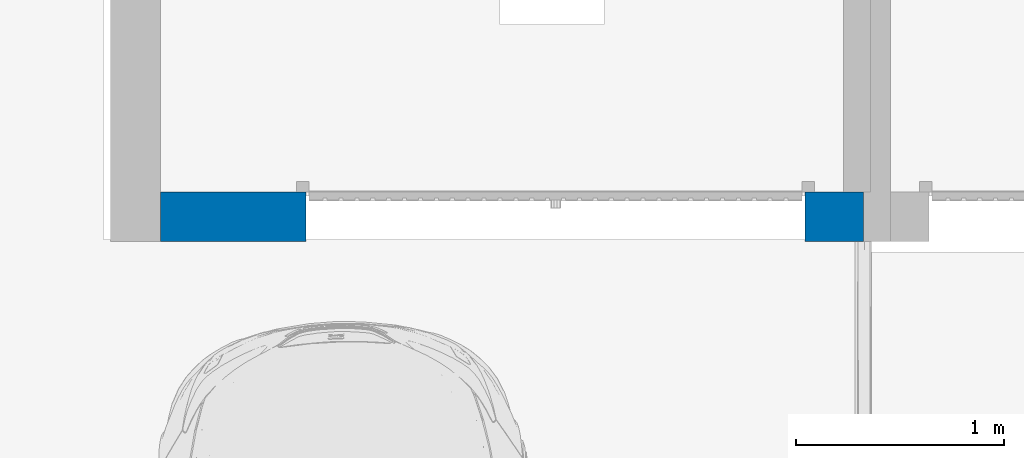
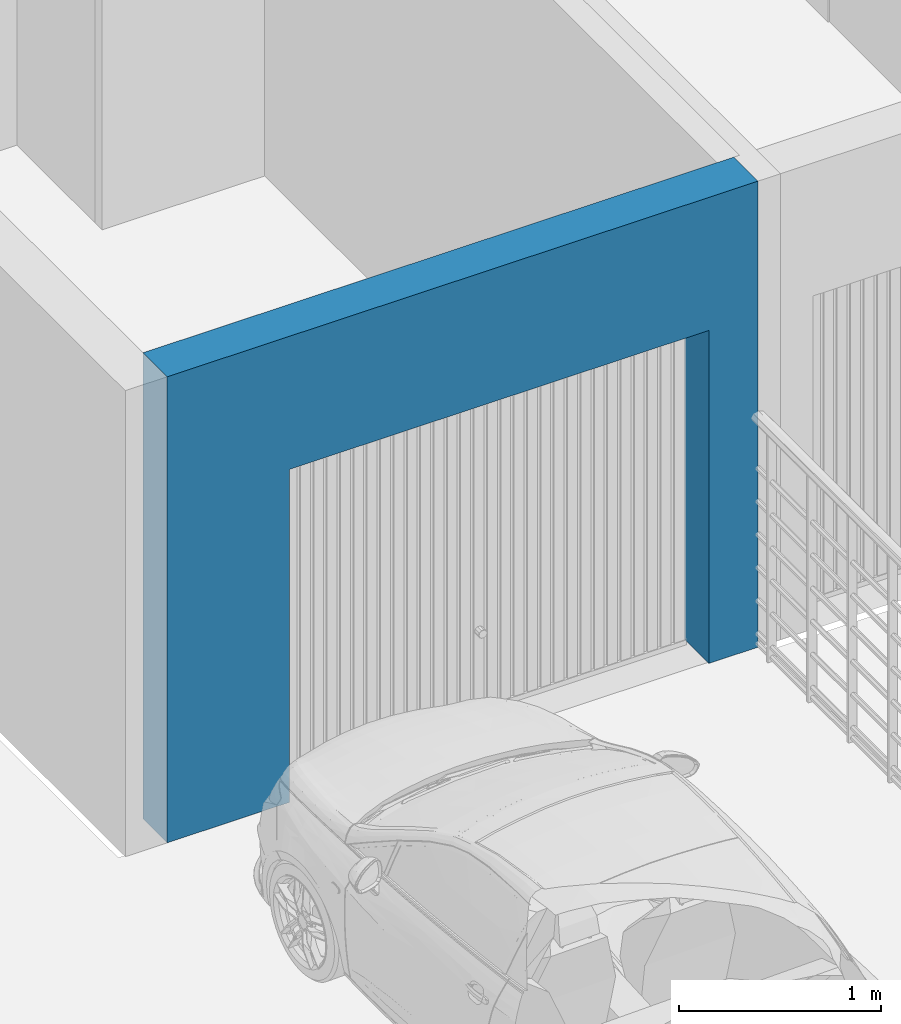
# One storey, part 14 of 33: 1 wall, 1 opening.
"""IFC2X3 building model written with IfcOpenShell, lengths in metres."""

from ifc_helpers import new_model, entity, si_unit, converted_unit, derived_unit, direction, frame, frame_2d, origin, place, context, subcontext, project, spatial, rectangle, extrude, material, layer, layer_set, layer_usage, type_object, element, save


model = new_model("IFC2X3")

# Units and contexts
model_context = context("Model", 3, precision=1e-05, world=origin(), true_north=direction((6.12303176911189e-17, 1.0)))
context_of_model = context(None, 3, precision=1e-05, world=origin(), true_north=direction((6.12303176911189e-17, 1.0)))
body_context = subcontext(model_context, "Body", "Model", "MODEL_VIEW")
ifc_project = project(units=[si_unit("LENGTHUNIT", "METRE"), si_unit("AREAUNIT", "SQUARE_METRE"), si_unit("VOLUMEUNIT", "CUBIC_METRE"), converted_unit("PLANEANGLEUNIT", "DEGREE", entity("IfcRatioMeasure", 0.0174532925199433), si_unit("PLANEANGLEUNIT", "RADIAN"), dimensions=[0, 0, 0, 0, 0, 0, 0]), si_unit("MASSUNIT", "GRAM", prefix="KILO"), si_unit("TIMEUNIT", "SECOND"), si_unit("FREQUENCYUNIT", "HERTZ"), si_unit("THERMODYNAMICTEMPERATUREUNIT", "DEGREE_CELSIUS"), derived_unit("THERMALTRANSMITTANCEUNIT", [(si_unit("MASSUNIT", "GRAM", prefix="KILO"), 1), (si_unit("THERMODYNAMICTEMPERATUREUNIT", "KELVIN"), -1), (si_unit("TIMEUNIT", "SECOND"), -3)]), derived_unit("VOLUMETRICFLOWRATEUNIT", [(si_unit("LENGTHUNIT", "METRE"), 3), (si_unit("TIMEUNIT", "SECOND"), -1)]), si_unit("ELECTRICCURRENTUNIT", "AMPERE"), si_unit("ELECTRICVOLTAGEUNIT", "VOLT"), si_unit("POWERUNIT", "WATT"), si_unit("FORCEUNIT", "NEWTON", prefix="KILO"), si_unit("ILLUMINANCEUNIT", "LUX"), si_unit("LUMINOUSFLUXUNIT", "LUMEN"), si_unit("LUMINOUSINTENSITYUNIT", "CANDELA"), si_unit("PRESSUREUNIT", "PASCAL")], contexts=[model_context, context_of_model])

# Site, building, storey
site_placement = place(None, origin())
site = spatial("IfcSite", under=ifc_project, at=site_placement, Name="Surface", CompositionType="ELEMENT")
building_placement = place(site_placement, origin())
building = spatial("IfcBuilding", under=site, at=building_placement, CompositionType="ELEMENT")
storey_placement = place(building_placement, origin())
storey = spatial("IfcBuildingStorey", under=building, at=storey_placement, Name="Plan des fondations  Maisons 1 et 2", CompositionType="ELEMENT", Elevation=0.0)

# Wall, opening
ifc_material_1 = material(Name="Enduit  gris")
ifc_layer_1 = layer(ifc_material_1, 0.02)
ifc_material_2 = material(Name="Parpaing")
ifc_layer_2 = layer(ifc_material_2, 0.2)
ifc_layer_3 = layer(ifc_material_1, 0.02)
ifc_layer_set = layer_set([ifc_layer_1, ifc_layer_2, ifc_layer_3], Name="Mur de base:Ext. Parpaing 2 + 20 + 2 gris")
ifc_layer_usage = layer_usage(ifc_layer_set, "AXIS2", "POSITIVE", -0.12)
wall_type = type_object("IfcWallType", Name="Mur de base:Ext. Parpaing 2 + 20 + 2 gris", PredefinedType="STANDARD", material=ifc_layer_set)
wall_placement = place(storey_placement, frame((83.7117857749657, 81.0475239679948, 0.0), z_axis=(0.0, 0.0, 1.0), x_axis=(-1.0, 0.0, 0.0)))
wall = element("IfcWallStandardCase", 1, at=wall_placement, inside=storey, type_object=wall_type, material=ifc_layer_usage, Name="Mur de base:Ext. Parpaing 2 + 20 + 2 gris", ObjectType="Mur de base:Ext. Parpaing 2 + 20 + 2 gris", context=body_context, shape_type="SweptSolid", body=[
    extrude(rectangle(XDim=3.38076681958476, YDim=0.240000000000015, at=frame_2d((1.69038340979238, 0.0), x_axis=(-1.0, 0.0))), origin(), (0.0, 0.0, 1.0), 2.82),
])
opening_placement = place(wall_placement, frame((83.7117857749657, 81.0475239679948, 0.0), z_axis=(0.0, 0.0, 1.0), x_axis=(-1.0, 0.0, 0.0)))
element("IfcOpeningElement", 2, at=opening_placement, cuts=wall, Name="Mur de base:Ext. Parpaing 2 + 20 + 2 gris", ObjectType="Opening", context=body_context, shape_type="SweptSolid", body=[
    extrude(rectangle(XDim=2.01500000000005, YDim=2.39999999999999, at=frame_2d((-8.65973959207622e-15, 0.0), x_axis=(0.0, 1.0))), frame((82.2310189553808, 81.4675239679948, 1.00750000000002), z_axis=(0.0, -1.0, 0.0), x_axis=(-1.0, 0.0, 0.0)), (0.0, 0.0, 1.0), 0.840000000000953),
])

save(model, "model.ifc")
